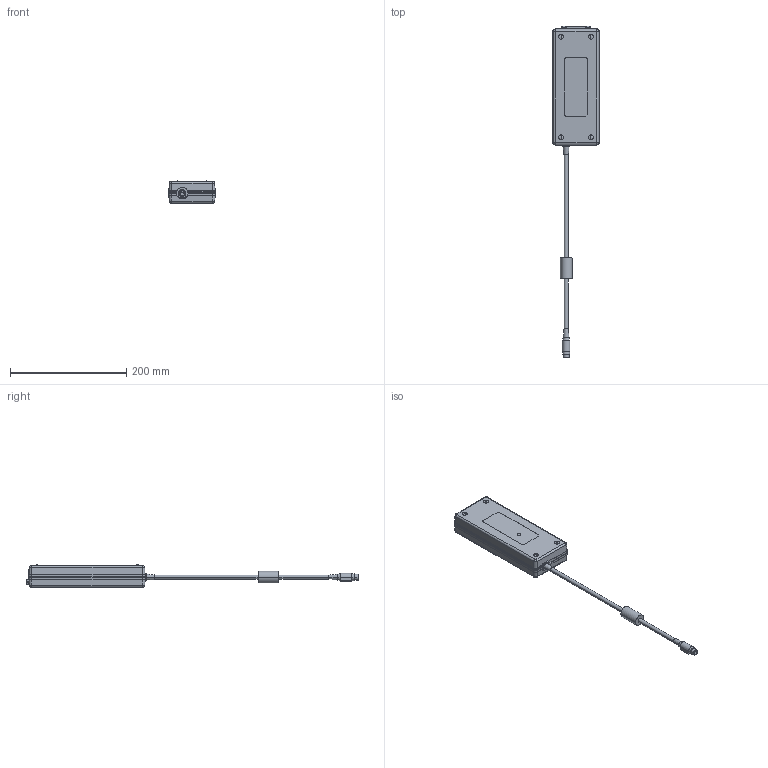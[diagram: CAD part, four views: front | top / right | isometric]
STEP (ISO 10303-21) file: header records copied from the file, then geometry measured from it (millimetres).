
FILE_DESCRIPTION (( 'STEP AP203' ), '1' );
FILE_NAME ('AHM150PSXX STEP.STEP', '2012-01-12T08:09:47', ( 'XP Power' ), ( 'Hewlett-Packard Company' ), 'SwSTEP 2.0', 'SolidWorks 2011', '' );
FILE_SCHEMA (( 'CONFIG_CONTROL_DESIGN' ));
Length unit declared in the file: millimetre
Products named in the file (12): AHM150PSXX STEP; CONN C1_4; 10009795A_1; 10009795A; LED LIGHT PIPE(10009913); Part74^ASSY AHM150 W CASING C1; Cross Recessed Countersunk Head Screw_JIS_JIS 1111 Cross recessed countersunk head screw - M3 x 20 -; 10009796A; RUBBER FOOTING 6MM(10010301); ASSY PCB AHM150; UL2464 COMMON PLUG WITH MINI-DIN; RUBBER FOOTING 8MM(10010299)
Assembly tree (21 placements, depth 3):
  AHM150PSXX STEP
    Cross Recessed Countersunk Head Screw_JIS_JIS 1111 Cross recessed countersunk head screw - M3 x 20 -  x5
    ASSY PCB AHM150
      UL2464 COMMON PLUG WITH MINI-DIN
    RUBBER FOOTING 8MM(10010299)  x4
    CONN C1_4
    RUBBER FOOTING 6MM(10010301)  x4
    10009796A
    10009795A_1
      LED LIGHT PIPE(10009913)
      10009795A
    Part74^ASSY AHM150 W CASING C1
Bounding box: 79.97 x 571.07 x 38.15 mm (x, y, z)
Volume: 155629.7 mm3; surface area: 135304.4 mm2
Topology: 19 solids, 19 shells, 2785 faces, 7550 edges, 4897 vertices
Faces by surface type: plane 1993, cylinder 367, bspline 199, cone 148, torus 75, sphere 3
Entity records: 94879 total; most frequent: CARTESIAN_POINT 30409, ORIENTED_EDGE 14120, DIRECTION 11352, EDGE_CURVE 7060, LINE 5154, VECTOR 5154, VERTEX_POINT 4630, AXIS2_PLACEMENT_3D 3099
